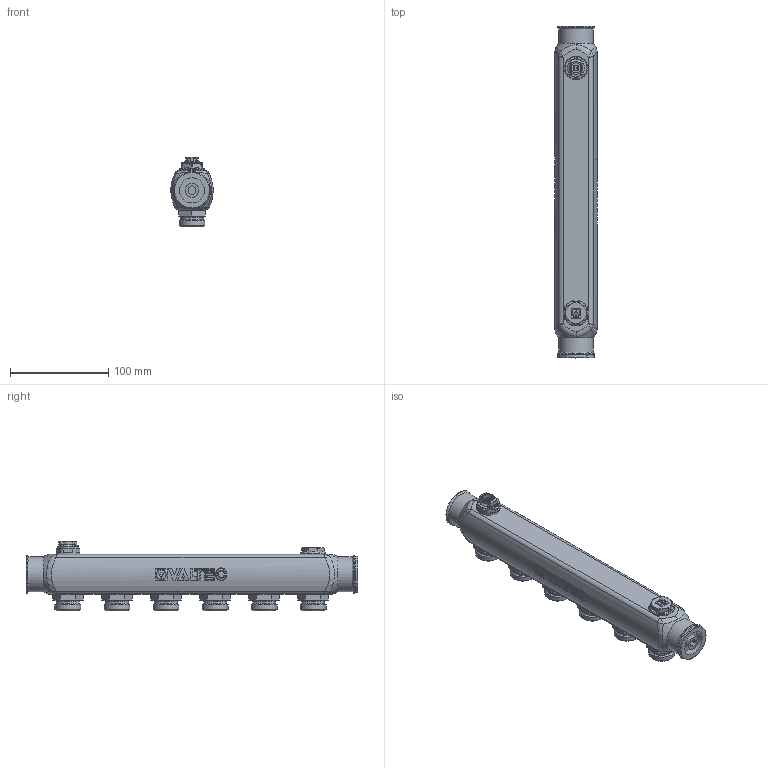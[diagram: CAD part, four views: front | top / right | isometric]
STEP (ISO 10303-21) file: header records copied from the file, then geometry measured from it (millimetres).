
FILE_DESCRIPTION(('STEP AP203'), '1');
FILE_NAME('覆.622621.033.000 捘 - VTc.505.SS.060506', '2024-08-29T10:47:33', ('Boss'), (''), 'C3D Converter', 'C3D Toolkit', '');
FILE_SCHEMA(('CONFIG_CONTROL_DESIGN'));
Length unit declared in the file: millimetre
Products named in the file (1): ВР.622621.033.000 СБ
Bounding box: 43 x 338.5 x 71.1 mm (x, y, z)
Volume: 470027.6 mm3; surface area: 133960.5 mm2
Topology: 1 solids, 23 shells, 788 faces, 1891 edges, 1178 vertices
Faces by surface type: plane 324, cylinder 202, cone 99, bspline 94, torus 69
Full cylindrical faces by diameter (mm): 5 x1, 5.3 x1, 10.2 x1, 12.5 x6, 14 x1, 18.1 x6, 22 x1, 23.5 x6, 24 x1, 25.5 x1, 26 x1, 26.441 x6, 30.292 x1, 35.5 x2, 37 x1
Entity records: 53051 total; most frequent: CARTESIAN_POINT 36509, ORIENTED_EDGE 3542, DIRECTION 3014, EDGE_CURVE 1771, AXIS2_PLACEMENT_3D 1207, VERTEX_POINT 1182, EDGE_LOOP 928, FACE_BOUND 809
